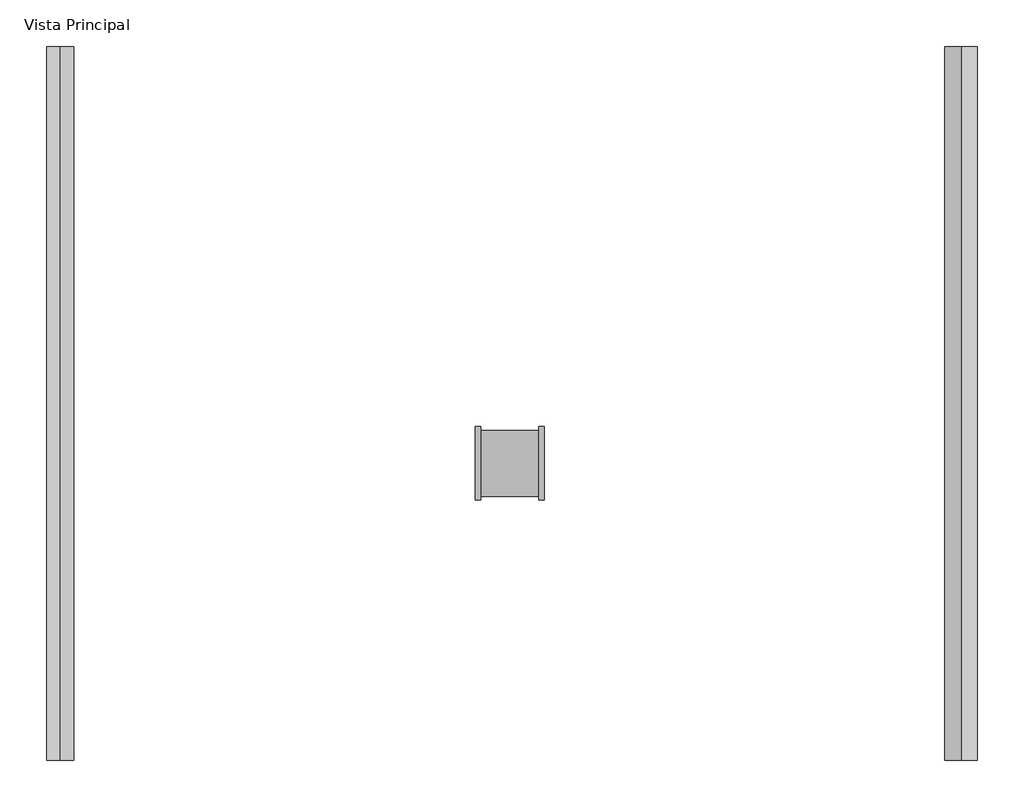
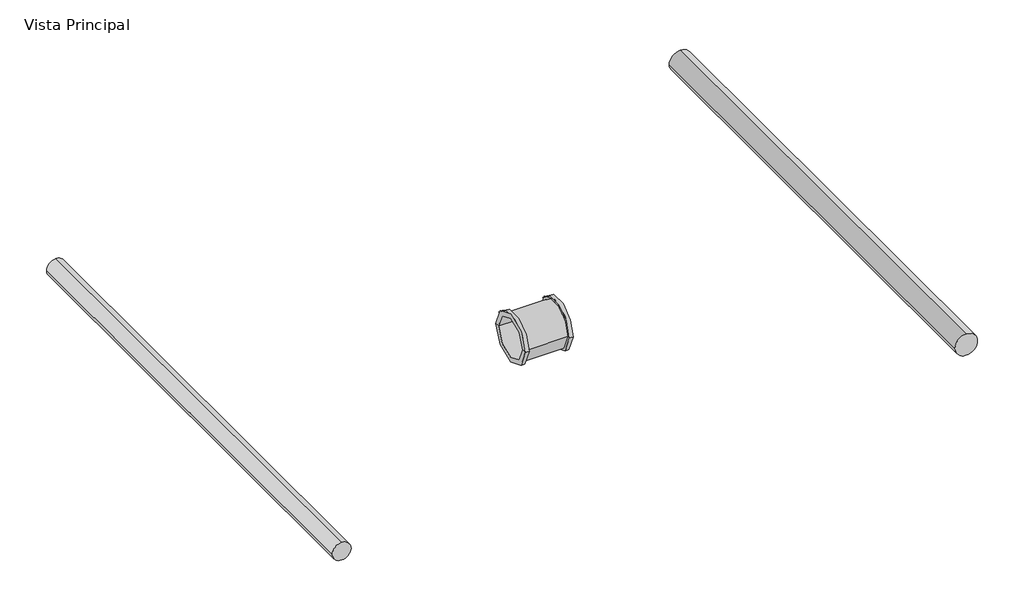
# One storey, incomplete: 2 pipe segments, 1 pipe fitting.
"""IFC4 building model written with IfcOpenShell, lengths in millimetres."""

from ifc_helpers import new_model, si_unit, point, frame, frame_2d, origin, place, context, project, spatial, circle_curve, trimmed, segment, composite_curve, outline, extrude, transform, mapped, element, save
from components import var_442856bb

model = new_model("IFC4")

# Units and contexts
model_context = context("Model", 3, world=origin())
ifc_project = project(units=[si_unit("LENGTHUNIT", "METRE", prefix="MILLI")], contexts=[model_context])

# Site, building, storey
site = spatial("IfcSite", under=ifc_project)
building = spatial("IfcBuilding", under=site)
storey = spatial("IfcBuildingStorey", under=building, Name="Vista Principal", Elevation=0.0)

# Pipe fitting
placement = place(None, origin())
var_shape = var_442856bb(model_context)
element("IfcPipeFitting", 1, ObjectType="AmancoWavin_ConexõesdeTubos_ÁguaFriaSoldávelLuva : var.", at=placement, inside=storey, context=model_context, shape_type="MappedRepresentation", body=[
    mapped(var_shape, transform((4121.1371856, 4988.1151847, 0.0), x_axis=(1.0, 0.0, 0.0), y_axis=(0.0, 1.0, 0.0), z_axis=(0.0, 0.0, 1.0))),
])

# Pipe segments
element("IfcPipeSegment", 2, ObjectType="Amanco Wavin Agua Fria Roscável", at=placement, inside=storey, context=model_context, shape_type="SweptSolid", body=[
    extrude(outline(composite_curve([segment(trimmed(circle_curve(frame_2d((0.0, 4955.2899138)), 30.05), [point((0.0, 4925.2399138))], [point((-30.05, 4955.2899138))], False, "CARTESIAN"), True, "CONTINUOUS"), segment(trimmed(circle_curve(frame_2d((0.0, 4955.2899138)), 30.05), [point((-30.05, 4955.2899138))], [point((0.0, 4985.3399138))], False, "CARTESIAN"), True, "CONTINUOUS"), segment(trimmed(circle_curve(frame_2d((0.0, 4955.2899138)), 30.05), [point((0.0, 4985.3399138))], [point((30.05, 4955.2899138))], False, "CARTESIAN"), True, "CONTINUOUS"), segment(trimmed(circle_curve(frame_2d((0.0, 4955.2899138)), 30.05), [point((30.05, 4955.2899138))], [point((0.0, 4925.2399138))], False, "CARTESIAN"), True, "CONTINUOUS")], self_intersect=False)), frame((0.0, 4439.0585151, 0.0), z_axis=(0.0, 1.0, 0.0), x_axis=(0.0, 0.0, 1.0)), (0.0, 0.0, 1.0), 1320.0),
])
element("IfcPipeSegment", 3, ObjectType="Amanco Wavin Agua Fria Soldável", at=placement, inside=storey, context=model_context, shape_type="SweptSolid", body=[
    extrude(outline(composite_curve([segment(trimmed(circle_curve(frame_2d((0.0, 3289.7132202)), 25.0), [point((0.0, 3314.7132202))], [point((25.0, 3289.7132202))], False, "CARTESIAN"), True, "CONTINUOUS"), segment(trimmed(circle_curve(frame_2d((0.0, 3289.7132202)), 25.0), [point((25.0, 3289.7132202))], [point((0.0, 3264.7132202))], False, "CARTESIAN"), True, "CONTINUOUS"), segment(trimmed(circle_curve(frame_2d((0.0, 3289.7132202)), 25.0), [point((0.0, 3264.7132202))], [point((-25.0, 3289.7132202))], False, "CARTESIAN"), True, "CONTINUOUS"), segment(trimmed(circle_curve(frame_2d((0.0, 3289.7132202)), 25.0), [point((-25.0, 3289.7132202))], [point((0.0, 3314.7132202))], False, "CARTESIAN"), True, "CONTINUOUS")], self_intersect=False)), frame((0.0, 4439.0585151, 0.0), z_axis=(0.0, 1.0, 0.0), x_axis=(0.0, 0.0, 1.0)), (0.0, 0.0, 1.0), 1320.0),
])

save(model, "model.ifc")
